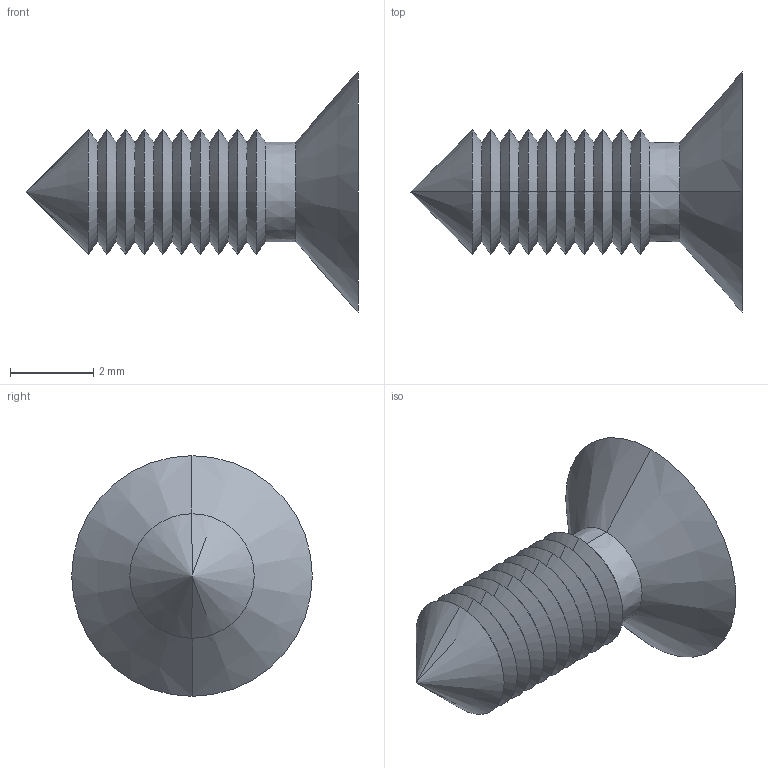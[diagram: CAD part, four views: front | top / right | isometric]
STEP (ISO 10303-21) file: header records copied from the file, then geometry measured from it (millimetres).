
FILE_DESCRIPTION (( 'STEP AP214' ), '1' );
FILE_NAME ('Cargol 2,9x 6,5 PP104.STEP', '2017-11-24T15:21:22', ( 'aaa' ), ( '' ), 'SwSTEP 2.0', 'SolidWorks 2013', '' );
FILE_SCHEMA (( 'AUTOMOTIVE_DESIGN' ));
Length unit declared in the file: millimetre
Products named in the file (1): Cargol 2,9x 6,5 PP104
Bounding box: 8 x 5.8 x 5.8 mm (x, y, z)
Volume: 51.6 mm3; surface area: 135 mm2
Topology: 1 solids, 1 shells, 58 faces, 126 edges, 69 vertices
Faces by surface type: cone 44, plane 14
Entity records: 1558 total; most frequent: DIRECTION 286, CARTESIAN_POINT 252, ORIENTED_EDGE 248, EDGE_CURVE 124, AXIS2_PLACEMENT_3D 103, LINE 80, VECTOR 80, VERTEX_POINT 69
